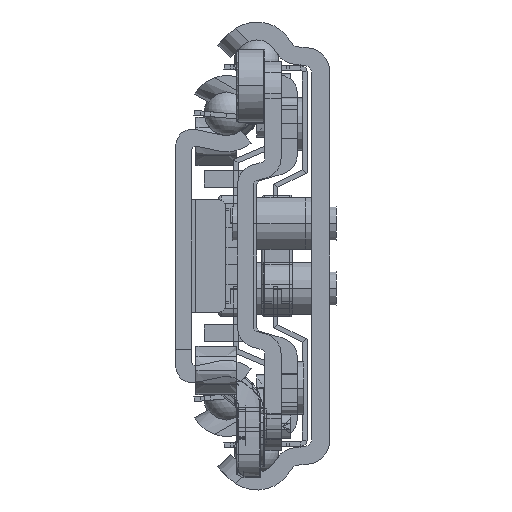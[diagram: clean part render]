
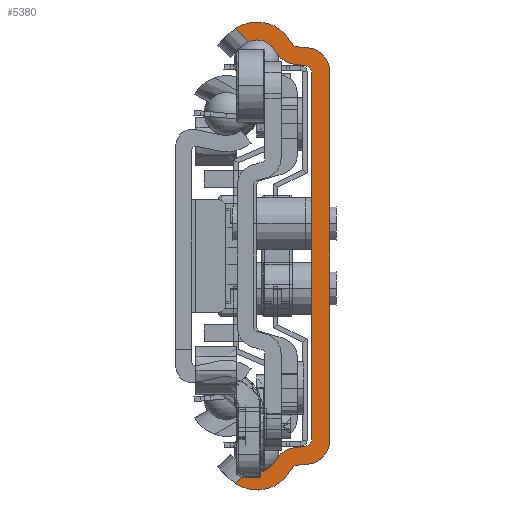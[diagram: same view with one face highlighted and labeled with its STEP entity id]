
A CAD part, left-side view. The second image highlights one B-rep face of the part: STEP entity #5380.
In plain terms, the highlighted planar face has unit normal (-1, 0, 0).
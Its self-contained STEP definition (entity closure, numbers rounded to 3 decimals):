
#1=DIRECTION('',(0.,0.717,-0.697));
#2=VECTOR('',#1,2.305);
#3=CARTESIAN_POINT('',(-650.,9.972,-26.461));
#4=LINE('',#3,#2);
#5=CARTESIAN_POINT('',(-650.,9.,-24.05));
#6=DIRECTION('',(-1.,0.,0.));
#7=DIRECTION('',(0.,0.374,-0.927));
#8=AXIS2_PLACEMENT_3D('',#5,#6,#7);
#10=CARTESIAN_POINT('',(-650.,4.005,-26.582));
#11=DIRECTION('',(-1.,0.,0.));
#12=DIRECTION('',(0.,0.07,0.998));
#13=AXIS2_PLACEMENT_3D('',#10,#11,#12);
#15=DIRECTION('',(0.,-0.998,0.07));
#16=VECTOR('',#15,1.087);
#17=CARTESIAN_POINT('',(-650.,4.214,-23.589));
#18=LINE('',#17,#16);
#19=DIRECTION('',(0.,0.,1.));
#20=VECTOR('',#19,45.032);
#21=CARTESIAN_POINT('',(-650.,2.2,-22.516));
#22=LINE('',#21,#20);
#23=DIRECTION('',(0.,0.998,0.07));
#24=VECTOR('',#23,1.087);
#25=CARTESIAN_POINT('',(-650.,3.13,23.514));
#26=LINE('',#25,#24);
#27=CARTESIAN_POINT('',(-650.,4.005,26.582));
#28=DIRECTION('',(-1.,0.,0.));
#29=DIRECTION('',(0.,0.892,-0.452));
#30=AXIS2_PLACEMENT_3D('',#27,#28,#29);
#32=CARTESIAN_POINT('',(-650.,9.,24.05));
#33=DIRECTION('',(-1.,0.,0.));
#34=DIRECTION('',(0.,-0.892,0.452));
#35=AXIS2_PLACEMENT_3D('',#32,#33,#34);
#37=DIRECTION('',(0.,-0.717,-0.697));
#38=VECTOR('',#37,2.305);
#39=CARTESIAN_POINT('',(-650.,11.624,28.069));
#40=LINE('',#39,#38);
#41=CARTESIAN_POINT('',(-650.,9.,24.05));
#42=DIRECTION('',(1.,0.,0.));
#43=DIRECTION('',(0.,0.547,0.837));
#44=AXIS2_PLACEMENT_3D('',#41,#42,#43);
#46=DIRECTION('',(0.,-0.998,-0.07));
#47=VECTOR('',#46,1.161);
#48=CARTESIAN_POINT('',(-650.,3.949,25.776));
#49=LINE('',#48,#47);
#50=CARTESIAN_POINT('',(-650.,3.,22.702));
#51=DIRECTION('',(-1.,0.,0.));
#52=DIRECTION('',(0.,-1.,0.));
#53=AXIS2_PLACEMENT_3D('',#50,#51,#52);
#55=DIRECTION('',(0.,0.,-1.));
#56=VECTOR('',#55,45.405);
#57=CARTESIAN_POINT('',(-650.,0.,22.702));
#58=LINE('',#57,#56);
#59=CARTESIAN_POINT('',(-650.,3.,-22.702));
#60=DIRECTION('',(-1.,0.,0.));
#61=DIRECTION('',(0.,-0.07,-0.998));
#62=AXIS2_PLACEMENT_3D('',#59,#60,#61);
#64=DIRECTION('',(0.,0.998,-0.07));
#65=VECTOR('',#64,1.161);
#66=CARTESIAN_POINT('',(-650.,2.791,-25.695));
#67=LINE('',#66,#65);
#68=CARTESIAN_POINT('',(-650.,9.,-24.05));
#69=DIRECTION('',(1.,0.,0.));
#70=DIRECTION('',(0.,-0.883,-0.47));
#71=AXIS2_PLACEMENT_3D('',#68,#69,#70);
#79=CARTESIAN_POINT('',(-650.,11.624,-28.069));
#103=CARTESIAN_POINT('',(-650.,9.972,-26.461));
#195=CARTESIAN_POINT('',(-650.,11.624,28.069));
#201=CARTESIAN_POINT('',(-650.,3.879,26.774));
#202=DIRECTION('',(1.,0.,0.));
#203=DIRECTION('',(0.,0.07,-0.998));
#204=AXIS2_PLACEMENT_3D('',#201,#202,#203);
#1227=CARTESIAN_POINT('',(-650.,3.879,-26.774));
#1228=DIRECTION('',(1.,0.,0.));
#1229=DIRECTION('',(0.,0.883,0.47));
#1230=AXIS2_PLACEMENT_3D('',#1227,#1228,#1229);
#2322=CARTESIAN_POINT('',(-650.,3.2,-22.516));
#2323=DIRECTION('',(1.,0.,0.));
#2324=DIRECTION('',(0.,-1.,0.));
#2325=AXIS2_PLACEMENT_3D('',#2322,#2323,#2324);
#2340=CARTESIAN_POINT('',(-650.,3.2,22.516));
#2341=DIRECTION('',(1.,0.,0.));
#2342=DIRECTION('',(0.,-0.07,0.998));
#2343=AXIS2_PLACEMENT_3D('',#2340,#2341,#2342);
#2364=CARTESIAN_POINT('',(-650.,9.972,26.461));
#4197=CARTESIAN_POINT('',(-650.,2.2,-22.516));
#4199=VERTEX_POINT('',#4197);
#4201=CARTESIAN_POINT('',(-650.,3.13,-23.514));
#4203=VERTEX_POINT('',#4201);
#4205=CARTESIAN_POINT('',(-650.,3.13,23.514));
#4207=VERTEX_POINT('',#4205);
#4209=CARTESIAN_POINT('',(-650.,2.2,22.516));
#4211=VERTEX_POINT('',#4209);
#4213=CARTESIAN_POINT('',(-650.,3.949,25.776));
#4215=VERTEX_POINT('',#4213);
#4217=CARTESIAN_POINT('',(-650.,4.762,26.304));
#4219=VERTEX_POINT('',#4217);
#4221=CARTESIAN_POINT('',(-650.,4.762,-26.304));
#4223=VERTEX_POINT('',#4221);
#4225=CARTESIAN_POINT('',(-650.,3.949,-25.776));
#4227=VERTEX_POINT('',#4225);
#4229=CARTESIAN_POINT('',(-650.,4.214,-23.589));
#4230=CARTESIAN_POINT('',(-650.,6.681,-25.226));
#4231=VERTEX_POINT('',#4229);
#4232=VERTEX_POINT('',#4230);
#4237=CARTESIAN_POINT('',(-650.,6.681,25.226));
#4238=CARTESIAN_POINT('',(-650.,4.214,23.589));
#4239=VERTEX_POINT('',#4237);
#4240=VERTEX_POINT('',#4238);
#4245=CARTESIAN_POINT('',(-650.,0.,22.702));
#4246=CARTESIAN_POINT('',(-650.,2.791,25.695));
#4247=VERTEX_POINT('',#4245);
#4248=VERTEX_POINT('',#4246);
#4253=CARTESIAN_POINT('',(-650.,2.791,-25.695));
#4254=CARTESIAN_POINT('',(-650.,0.,-22.702));
#4255=VERTEX_POINT('',#4253);
#4256=VERTEX_POINT('',#4254);
#4603=VERTEX_POINT('',#79);
#4611=VERTEX_POINT('',#103);
#4612=VERTEX_POINT('',#2364);
#4620=VERTEX_POINT('',#195);
#5333=CARTESIAN_POINT('',(-650.,0.,0.));
#5334=DIRECTION('',(1.,0.,0.));
#5335=DIRECTION('',(0.,-1.,0.));
#5336=AXIS2_PLACEMENT_3D('',#5333,#5334,#5335);
#5337=PLANE('',#5336);
#5339=ORIENTED_EDGE('',*,*,#5338,.F.);
#5341=ORIENTED_EDGE('',*,*,#5340,.T.);
#5343=ORIENTED_EDGE('',*,*,#5342,.F.);
#5345=ORIENTED_EDGE('',*,*,#5344,.T.);
#5347=ORIENTED_EDGE('',*,*,#5346,.F.);
#5349=ORIENTED_EDGE('',*,*,#5348,.T.);
#5351=ORIENTED_EDGE('',*,*,#5350,.F.);
#5353=ORIENTED_EDGE('',*,*,#5352,.T.);
#5355=ORIENTED_EDGE('',*,*,#5354,.F.);
#5357=ORIENTED_EDGE('',*,*,#5356,.T.);
#5359=ORIENTED_EDGE('',*,*,#5358,.F.);
#5361=ORIENTED_EDGE('',*,*,#5360,.T.);
#5363=ORIENTED_EDGE('',*,*,#5362,.F.);
#5365=ORIENTED_EDGE('',*,*,#5364,.T.);
#5367=ORIENTED_EDGE('',*,*,#5366,.F.);
#5369=ORIENTED_EDGE('',*,*,#5368,.T.);
#5371=ORIENTED_EDGE('',*,*,#5370,.F.);
#5373=ORIENTED_EDGE('',*,*,#5372,.T.);
#5375=ORIENTED_EDGE('',*,*,#5374,.F.);
#5377=ORIENTED_EDGE('',*,*,#5376,.T.);
#5378=EDGE_LOOP('',(#5339,#5341,#5343,#5345,#5347,#5349,#5351,#5353,#5355,#5357,
#5359,#5361,#5363,#5365,#5367,#5369,#5371,#5373,#5375,#5377));
#5379=FACE_OUTER_BOUND('',#5378,.F.);
#5380=ADVANCED_FACE('',(#5379),#5337,.F.);
#9=CIRCLE('',#8,2.6);
#14=CIRCLE('',#13,3.);
#31=CIRCLE('',#30,3.);
#36=CIRCLE('',#35,2.6);
#45=CIRCLE('',#44,4.8);
#54=CIRCLE('',#53,3.);
#63=CIRCLE('',#62,3.);
#72=CIRCLE('',#71,4.8);
#205=CIRCLE('',#204,1.);
#1231=CIRCLE('',#1230,1.);
#2326=CIRCLE('',#2325,1.);
#2344=CIRCLE('',#2343,1.);
#5338=EDGE_CURVE('',#4611,#4603,#4,.T.);
#5340=EDGE_CURVE('',#4611,#4232,#9,.T.);
#5342=EDGE_CURVE('',#4231,#4232,#14,.T.);
#5344=EDGE_CURVE('',#4231,#4203,#18,.T.);
#5346=EDGE_CURVE('',#4199,#4203,#2326,.T.);
#5348=EDGE_CURVE('',#4199,#4211,#22,.T.);
#5350=EDGE_CURVE('',#4207,#4211,#2344,.T.);
#5352=EDGE_CURVE('',#4207,#4240,#26,.T.);
#5354=EDGE_CURVE('',#4239,#4240,#31,.T.);
#5356=EDGE_CURVE('',#4239,#4612,#36,.T.);
#5358=EDGE_CURVE('',#4620,#4612,#40,.T.);
#5360=EDGE_CURVE('',#4620,#4219,#45,.T.);
#5362=EDGE_CURVE('',#4215,#4219,#205,.T.);
#5364=EDGE_CURVE('',#4215,#4248,#49,.T.);
#5366=EDGE_CURVE('',#4247,#4248,#54,.T.);
#5368=EDGE_CURVE('',#4247,#4256,#58,.T.);
#5370=EDGE_CURVE('',#4255,#4256,#63,.T.);
#5372=EDGE_CURVE('',#4255,#4227,#67,.T.);
#5374=EDGE_CURVE('',#4223,#4227,#1231,.T.);
#5376=EDGE_CURVE('',#4223,#4603,#72,.T.);
